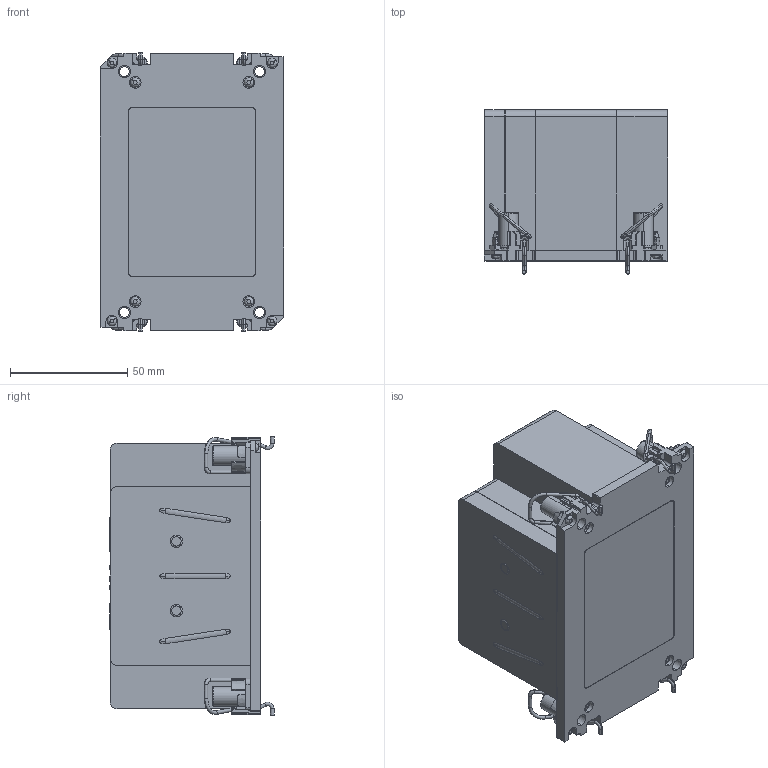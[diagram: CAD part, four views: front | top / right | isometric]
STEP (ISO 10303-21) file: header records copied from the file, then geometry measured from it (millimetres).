
FILE_DESCRIPTION((''),'2;1');
FILE_NAME('RGB220-P_ME_ASM','2022-10-05T',('User'),(''),'PRO/ENGINEER BY PARAMETRIC TECHNOLOGY CORPORATION, 2017170','PRO/ENGINEER BY PARAMETRIC TECHNOLOGY CORPORATION, 2017170','');
FILE_SCHEMA(('CONFIG_CONTROL_DESIGN'));
Products named in the file (3): RGB220-P_1; 4189_2U_LABEL_68_50_1; RGB220-P_ME_ASM
Assembly tree (2 placements, depth 2):
  RGB220-P_ME_ASM
    RGB220-P_1
    4189_2U_LABEL_68_50_1
Bounding box: 78 x 69.85 x 118.5 mm (x, y, z)
Volume: 475569.3 mm3; surface area: 65069.6 mm2
Topology: 2 solids, 7 shells, 3839 faces, 11166 edges, 7442 vertices
Faces by surface type: plane 2731, cylinder 730, torus 188, cone 164, bspline 22, sphere 4
Entity records: 129007 total; most frequent: CARTESIAN_POINT 26173, ORIENTED_EDGE 22324, DIRECTION 20534, EDGE_CURVE 11162, VECTOR 8140, LINE 8140, VERTEX_POINT 7442, AXIS2_PLACEMENT_3D 6197
